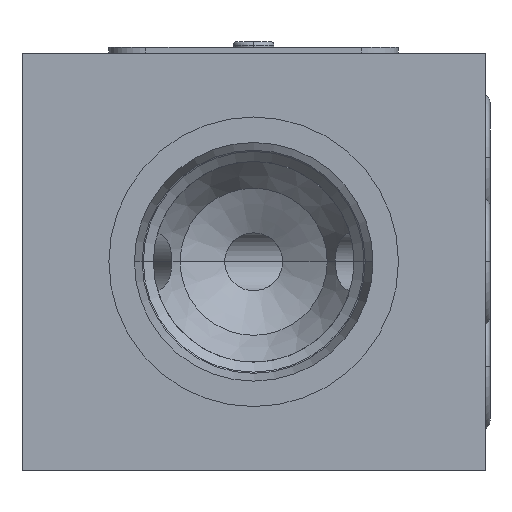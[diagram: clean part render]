
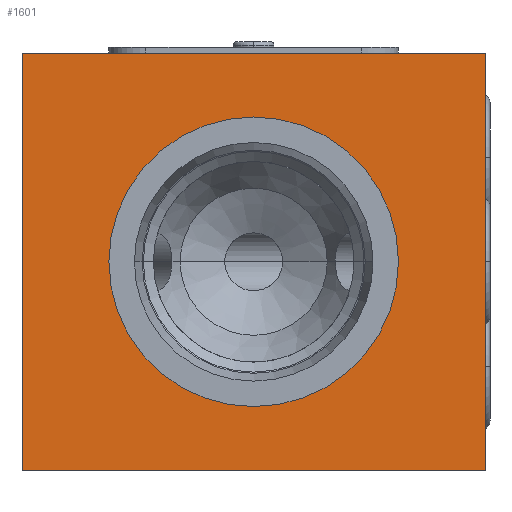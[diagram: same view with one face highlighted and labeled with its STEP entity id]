
A CAD part, left-side view. The second image highlights one B-rep face of the part: STEP entity #1601.
In plain terms, the highlighted planar face has unit normal (-1, 0, 0).
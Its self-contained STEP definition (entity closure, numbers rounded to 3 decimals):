
#50=DIRECTION('',(0.,0.,-1.));
#51=VECTOR('',#50,36.);
#52=CARTESIAN_POINT('',(0.,0.,0.));
#53=LINE('',#52,#51);
#54=DIRECTION('',(0.,1.,0.));
#55=VECTOR('',#54,40.);
#56=CARTESIAN_POINT('',(0.,0.,-36.));
#57=LINE('',#56,#55);
#58=DIRECTION('',(0.,0.,1.));
#59=VECTOR('',#58,36.);
#60=CARTESIAN_POINT('',(0.,40.,-36.));
#61=LINE('',#60,#59);
#62=DIRECTION('',(0.,-1.,0.));
#63=VECTOR('',#62,40.);
#64=CARTESIAN_POINT('',(0.,40.,0.));
#65=LINE('',#64,#63);
#66=CARTESIAN_POINT('',(0.,20.,-18.));
#67=DIRECTION('',(1.,0.,0.));
#68=DIRECTION('',(0.,-1.,0.));
#69=AXIS2_PLACEMENT_3D('',#66,#67,#68);
#71=CARTESIAN_POINT('',(0.,20.,-18.));
#72=DIRECTION('',(1.,0.,0.));
#73=DIRECTION('',(0.,1.,0.));
#74=AXIS2_PLACEMENT_3D('',#71,#72,#73);
#1366=CARTESIAN_POINT('',(0.,0.,0.));
#1367=CARTESIAN_POINT('',(0.,0.,-36.));
#1368=VERTEX_POINT('',#1366);
#1369=VERTEX_POINT('',#1367);
#1370=CARTESIAN_POINT('',(0.,40.,-36.));
#1371=VERTEX_POINT('',#1370);
#1372=CARTESIAN_POINT('',(0.,40.,0.));
#1373=VERTEX_POINT('',#1372);
#1482=CARTESIAN_POINT('',(0.,7.5,-18.));
#1483=VERTEX_POINT('',#1482);
#1484=CARTESIAN_POINT('',(0.,32.5,-18.));
#1485=VERTEX_POINT('',#1484);
#1580=CARTESIAN_POINT('',(0.,0.,0.));
#1581=DIRECTION('',(1.,0.,0.));
#1582=DIRECTION('',(0.,0.,-1.));
#1583=AXIS2_PLACEMENT_3D('',#1580,#1581,#1582);
#1584=PLANE('',#1583);
#1586=ORIENTED_EDGE('',*,*,#1585,.T.);
#1588=ORIENTED_EDGE('',*,*,#1587,.T.);
#1590=ORIENTED_EDGE('',*,*,#1589,.T.);
#1592=ORIENTED_EDGE('',*,*,#1591,.T.);
#1593=EDGE_LOOP('',(#1586,#1588,#1590,#1592));
#1594=FACE_OUTER_BOUND('',#1593,.F.);
#1596=ORIENTED_EDGE('',*,*,#1595,.F.);
#1598=ORIENTED_EDGE('',*,*,#1597,.F.);
#1599=EDGE_LOOP('',(#1596,#1598));
#1600=FACE_BOUND('',#1599,.F.);
#70=CIRCLE('',#69,12.5);
#75=CIRCLE('',#74,12.5);
#1585=EDGE_CURVE('',#1368,#1369,#53,.T.);
#1587=EDGE_CURVE('',#1369,#1371,#57,.T.);
#1589=EDGE_CURVE('',#1371,#1373,#61,.T.);
#1591=EDGE_CURVE('',#1373,#1368,#65,.T.);
#1595=EDGE_CURVE('',#1483,#1485,#70,.T.);
#1597=EDGE_CURVE('',#1485,#1483,#75,.T.);
#1601=ADVANCED_FACE('',(#1594,#1600),#1584,.F.);
